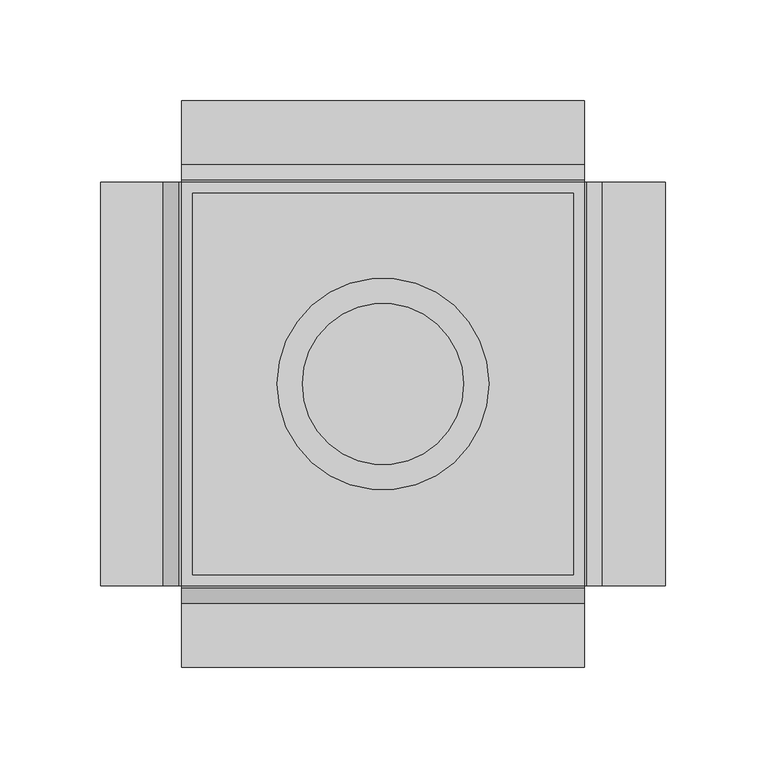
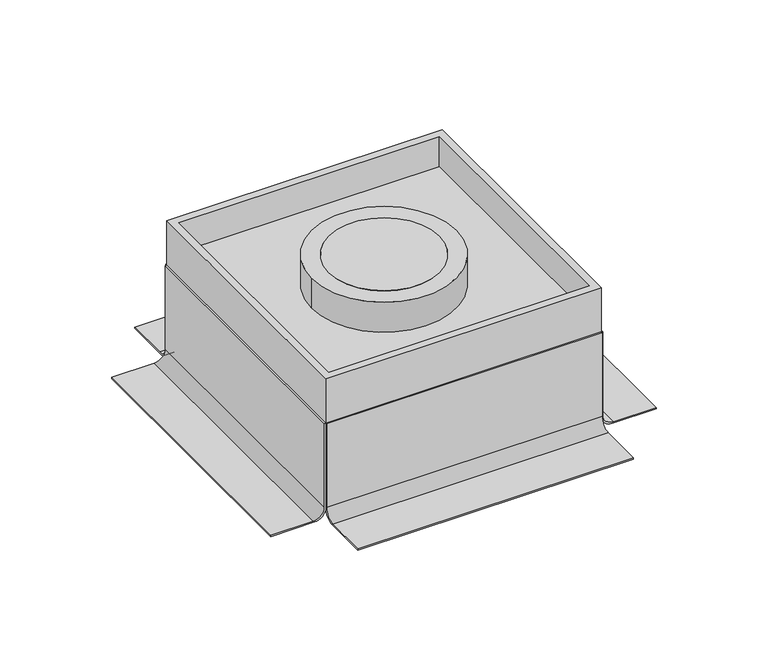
"""IFC4 building model written with IfcOpenShell, lengths in millimetres: proxy geometry, Electrical_Installation_Hager_VE-EE_EKSQ0620TM-Heavy-duty-cassette-Q06-with-tube-mounting-set : Stainless-steel cassette Q06 TM 20 kN."""

import ifcopenshell
import ifcopenshell.guid

model = None  # the IFC model being written
_history = None  # IfcOwnerHistory: only IFC2X3 demands one
_inside = {}  # id of a spatial element -> (the spatial element, [elements in it])
_under = {}  # id of a project, library or spatial element -> (it, [spatial elements below it])
_declared = {}  # id of a project -> (the project, [libraries it declares])
_typed = {}  # id of a type object -> (the type object, [elements of that type])
_made_of = {}  # id of a material, layer set ... -> (it, [elements and type objects made of it])


def new_model(schema):
    """Start an empty IFC model of exactly this schema.

    Asked for "IFC4X3", IfcOpenShell would pick the latest addendum, in which some entities
    have other attributes; the version numbers below select the first issue.
    IFC2X3 requires an IfcOwnerHistory on every rooted entity: one is made here for all.
    """
    global model, _history
    if schema == "IFC4X3":
        model = ifcopenshell.file(schema_version=(4, 3, 0, 0))
    else:
        model = ifcopenshell.file(schema=schema)
    _inside.clear()
    _under.clear()
    _declared.clear()
    _typed.clear()
    _made_of.clear()
    _history = None
    if model.schema == "IFC2X3":
        org = make("IfcOrganization", Name="unknown")
        user = make(
            "IfcPersonAndOrganization",
            ThePerson=make("IfcPerson", FamilyName="unknown"),
            TheOrganization=org,
        )
        app = make(
            "IfcApplication",
            ApplicationDeveloper=org,
            Version="unknown",
            ApplicationFullName="unknown",
            ApplicationIdentifier="unknown",
        )
        _history = make(
            "IfcOwnerHistory",
            OwningUser=user,
            OwningApplication=app,
            ChangeAction="ADDED",
            CreationDate=0,
        )
    return model


def make(cls, **values):
    """One entity of the class cls with the attributes given. An attribute that is None is left unset."""
    return model.create_entity(
        cls, **{name: value for name, value in values.items() if value is not None}
    )


def rooted(cls, **values):
    """An entity with a GlobalId (a new one), such as an element, a storey or a relation."""
    return make(cls, GlobalId=ifcopenshell.guid.new(), OwnerHistory=_history, **values)


def si_unit(unit_type, name, prefix=None):
    """IfcSIUnit, for example si_unit("LENGTHUNIT", "METRE", prefix="MILLI")."""
    return make("IfcSIUnit", UnitType=unit_type, Prefix=prefix, Name=name)


def assignment(units):
    """IfcUnitAssignment: the units of a project."""
    return None if units is None else make("IfcUnitAssignment", Units=units)


def point(xyz):
    """IfcCartesianPoint."""
    return None if xyz is None else make("IfcCartesianPoint", Coordinates=xyz)


def direction(xyz):
    """IfcDirection."""
    return None if xyz is None else make("IfcDirection", DirectionRatios=xyz)


def frame(location, z_axis=None, x_axis=None):
    """IfcAxis2Placement3D, a coordinate frame: its origin and axes. An axis left out is left unset."""
    return make(
        "IfcAxis2Placement3D",
        Location=point(location),
        Axis=direction(z_axis),
        RefDirection=direction(x_axis),
    )


def frame_2d(location, x_axis=None):
    """IfcAxis2Placement2D, a coordinate frame in the plane: its origin and x axis."""
    return make(
        "IfcAxis2Placement2D", Location=point(location), RefDirection=direction(x_axis)
    )


def origin():
    """The frame at (0, 0, 0) with its axes left unset."""
    return frame((0.0, 0.0, 0.0))


def origin_with_axes():
    """The frame at (0, 0, 0) with the z axis (0, 0, 1) and the x axis (1, 0, 0) written out."""
    return frame((0.0, 0.0, 0.0), z_axis=(0.0, 0.0, 1.0), x_axis=(1.0, 0.0, 0.0))


def origin_2d():
    """The frame at (0, 0) in the plane with its x axis left unset."""
    return frame_2d((0.0, 0.0))


def place(relative_to, where):
    """IfcLocalPlacement: puts the frame where relative to a parent placement (None: the world)."""
    return make(
        "IfcLocalPlacement", PlacementRelTo=relative_to, RelativePlacement=where
    )


def context(
    kind, dimensions, precision=None, world=None, true_north=None, identifier=None
):
    """IfcGeometricRepresentationContext, for example the 3D "Model" context."""
    return make(
        "IfcGeometricRepresentationContext",
        ContextIdentifier=identifier,
        ContextType=kind,
        CoordinateSpaceDimension=dimensions,
        Precision=precision,
        WorldCoordinateSystem=world,
        TrueNorth=true_north,
    )


def project(units=None, contexts=None):
    """IfcProject with its units and contexts."""
    return rooted(
        "IfcProject",
        Name="project",
        RepresentationContexts=contexts,
        UnitsInContext=assignment(units),
    )


def spatial(cls, under=None, at=None, **own):
    """A site, building, storey or space (cls), placed at a placement, below another one or the project."""
    s = rooted(cls, ObjectPlacement=at, **own)
    if under is not None:
        _under.setdefault(under.id(), (under, []))[1].append(s)
    return s


def polyline(points):
    """IfcPolyline through the points."""
    return make("IfcPolyline", Points=[point(p) for p in points])


def circle_curve(where, radius):
    """IfcCircle in the frame where."""
    return make("IfcCircle", Position=where, Radius=radius)


def trimmed(basis, trim1, trim2, sense, master):
    """IfcTrimmedCurve: the piece of a basis curve between two trims."""
    return make(
        "IfcTrimmedCurve",
        BasisCurve=basis,
        Trim1=trim1,
        Trim2=trim2,
        SenseAgreement=sense,
        MasterRepresentation=master,
    )


def segment(curve, same_sense, transition):
    """IfcCompositeCurveSegment."""
    return make(
        "IfcCompositeCurveSegment",
        Transition=transition,
        SameSense=same_sense,
        ParentCurve=curve,
    )


def composite_curve(segments, self_intersect=None):
    """IfcCompositeCurve: segments joined end to end."""
    return make("IfcCompositeCurve", Segments=segments, SelfIntersect=self_intersect)


def outline(outer, holes=None, kind="AREA"):
    """IfcArbitraryClosedProfileDef: a profile drawn as a closed curve; with holes, ...WithVoids."""
    if holes is None:
        return make("IfcArbitraryClosedProfileDef", ProfileType=kind, OuterCurve=outer)
    return make(
        "IfcArbitraryProfileDefWithVoids",
        ProfileType=kind,
        OuterCurve=outer,
        InnerCurves=holes,
    )


def extrude(swept, where, along, depth):
    """IfcExtrudedAreaSolid: the profile swept, set in the frame where, extruded along a direction by depth."""
    return make(
        "IfcExtrudedAreaSolid",
        SweptArea=swept,
        Position=where,
        ExtrudedDirection=direction(along),
        Depth=depth,
    )


def shape(context_of_items, identifier, shape_type, items):
    """IfcShapeRepresentation: the items that make up one representation, for example the "Body"."""
    return make(
        "IfcShapeRepresentation",
        ContextOfItems=context_of_items,
        RepresentationIdentifier=identifier,
        RepresentationType=shape_type,
        Items=items,
    )


def source(mapping_origin, context_of_items, identifier, shape_type, items):
    """IfcRepresentationMap: a shape defined once, which mapped items show again and again."""
    return make(
        "IfcRepresentationMap",
        MappingOrigin=mapping_origin,
        MappedRepresentation=shape(context_of_items, identifier, shape_type, items),
    )


def transform(
    local_origin,
    x_axis=None,
    y_axis=None,
    z_axis=None,
    scale=None,
    scale2=None,
    scale3=None,
    uniform=True,
):
    """IfcCartesianTransformationOperator3D, or its non-uniform kind. x_axis, y_axis, z_axis: its Axis1, 2, 3."""
    if uniform:
        return make(
            "IfcCartesianTransformationOperator3D",
            Axis1=direction(x_axis),
            Axis2=direction(y_axis),
            LocalOrigin=point(local_origin),
            Scale=scale,
            Axis3=direction(z_axis),
        )
    return make(
        "IfcCartesianTransformationOperator3DnonUniform",
        Axis1=direction(x_axis),
        Axis2=direction(y_axis),
        LocalOrigin=point(local_origin),
        Scale=scale,
        Axis3=direction(z_axis),
        Scale2=scale2,
        Scale3=scale3,
    )


def mapped(mapping_source, mapping_target):
    """IfcMappedItem: shows the shape of a source again, moved by a transform."""
    return make(
        "IfcMappedItem", MappingSource=mapping_source, MappingTarget=mapping_target
    )


def made_of(thing, what):
    """Note that an element or type object is made of a material, layer set ...; save() writes the relation."""
    if what is not None:
        _made_of.setdefault(what.id(), (what, []))[1].append(thing)
    return thing


def element(
    cls,
    number,
    at=None,
    inside=None,
    cuts=None,
    type_object=None,
    material=None,
    context=None,
    identifier="Body",
    shape_type=None,
    held_by="IfcProductDefinitionShape",
    body=None,
    shapes=None,
    **own,
):
    """One element of the class cls, such as IfcWall. Its Tag is "e" and its number.

    at: its placement. inside: the storey or other place that contains it. cuts: it is an
    opening in that element (IfcRelVoidsElement). A single representation is given by context,
    identifier, shape_type and body (its items); several are given by shapes. held_by: the class
    of the entity that holds the representations. save() writes the other relations.
    """
    e = rooted(cls, Tag="e%d" % number, ObjectPlacement=at, **own)
    if body is not None:
        shapes = [shape(context, identifier, shape_type, body)]
    if shapes is not None:
        e.Representation = make(held_by, Representations=shapes)
    if inside is not None:
        _inside.setdefault(inside.id(), (inside, []))[1].append(e)
    if cuts is not None:
        rooted(
            "IfcRelVoidsElement", RelatingBuildingElement=cuts, RelatedOpeningElement=e
        )
    if type_object is not None:
        _typed.setdefault(type_object.id(), (type_object, []))[1].append(e)
    return made_of(e, material)


def aggregate(whole, parts):
    """IfcRelAggregates: a whole, such as a stair, and the parts it consists of."""
    return rooted("IfcRelAggregates", RelatingObject=whole, RelatedObjects=parts)


def save(model, path):
    """Write the relations noted so far, then the file.

    IfcRelAggregates (storeys below a building ...), IfcRelContainedInSpatialStructure (elements
    in a storey), IfcRelDefinesByType, IfcRelAssociatesMaterial and IfcRelDeclares: one each for
    every whole, place, type object, material and project.
    """
    for whole, parts in _under.values():
        aggregate(whole, parts)
    for where, things in _inside.values():
        rooted(
            "IfcRelContainedInSpatialStructure",
            RelatedElements=things,
            RelatingStructure=where,
        )
    for kind, things in _typed.values():
        rooted("IfcRelDefinesByType", RelatedObjects=things, RelatingType=kind)
    for what, things in _made_of.values():
        rooted("IfcRelAssociatesMaterial", RelatedObjects=things, RelatingMaterial=what)
    for by, libraries in _declared.values():
        rooted("IfcRelDeclares", RelatingContext=by, RelatedDefinitions=libraries)
    model.write(path)


def electrical_fixtures_e7bc1b67(model_context):
    return source(origin(), model_context, "Body", "SweptSolid", [
        extrude(outline(composite_curve([segment(trimmed(circle_curve(origin_2d(), 40.0), [point((-40.0, 0.0))], [point((40.0, 0.0))], False, "CARTESIAN"), True, "CONTINUOUS"), segment(trimmed(circle_curve(origin_2d(), 40.0), [point((40.0, 0.0))], [point((-40.0, 0.0))], False, "CARTESIAN"), True, "CONTINUOUS")], self_intersect=False)), origin_with_axes(), (0.0, 0.0, 1.0), 2.0),
        extrude(outline(composite_curve([segment(trimmed(circle_curve(origin_2d(), 52.5), [point((-52.5, 0.0))], [point((52.5, 0.0))], False, "CARTESIAN"), True, "CONTINUOUS"), segment(trimmed(circle_curve(origin_2d(), 52.5), [point((52.5, 0.0))], [point((-52.5, 0.0))], False, "CARTESIAN"), True, "CONTINUOUS")], self_intersect=False), holes=[composite_curve([segment(trimmed(circle_curve(origin_2d(), 40.0), [point((-40.0, 0.0))], [point((40.0, 0.0))], True, "CARTESIAN"), True, "CONTINUOUS"), segment(trimmed(circle_curve(origin_2d(), 40.0), [point((40.0, 0.0))], [point((-40.0, 0.0))], True, "CARTESIAN"), True, "CONTINUOUS")], self_intersect=False)]), frame((0.0, 0.0, -21.0), z_axis=(0.0, 0.0, 1.0), x_axis=(1.0, 0.0, 0.0)), (0.0, 0.0, 1.0), 23.0),
        extrude(outline(composite_curve([segment(polyline([(-32.0, -100.0), (-32.0, -101.0), (-96.0, -101.0)]), True, "CONTINUOUS"), segment(trimmed(circle_curve(frame_2d((-96.0, -109.0)), 8.0), [point((-96.0, -101.0))], [point((-104.0, -109.0))], True, "CARTESIAN"), True, "CONTINUOUS"), segment(polyline([(-104.0, -109.0), (-104.0, -140.0), (-105.0, -140.0), (-105.0, -108.0)]), True, "CONTINUOUS"), segment(trimmed(circle_curve(frame_2d((-97.0, -108.0)), 8.0), [point((-105.0, -108.0))], [point((-97.0, -100.0))], False, "CARTESIAN"), True, "CONTINUOUS"), segment(polyline([(-97.0, -100.0), (-32.0, -100.0)]), True, "CONTINUOUS")], self_intersect=False)), frame((0.0, -100.0, 0.0), z_axis=(0.0, 1.0, 0.0), x_axis=(0.0, 0.0, 1.0)), (0.0, 0.0, 1.0), 200.0),
        extrude(outline(composite_curve([segment(polyline([(-32.0, 100.0), (-97.0, 100.0)]), True, "CONTINUOUS"), segment(trimmed(circle_curve(frame_2d((-97.0, 108.0)), 8.0), [point((-97.0, 100.0))], [point((-105.0, 108.0))], False, "CARTESIAN"), True, "CONTINUOUS"), segment(polyline([(-105.0, 108.0), (-105.0, 140.0), (-104.0, 140.0), (-104.0, 109.0)]), True, "CONTINUOUS"), segment(trimmed(circle_curve(frame_2d((-96.0, 109.0)), 8.0), [point((-104.0, 109.0))], [point((-96.0, 101.0))], True, "CARTESIAN"), True, "CONTINUOUS"), segment(polyline([(-96.0, 101.0), (-32.0, 101.0), (-32.0, 100.0)]), True, "CONTINUOUS")], self_intersect=False)), frame((0.0, -100.0, 0.0), z_axis=(0.0, 1.0, 0.0), x_axis=(0.0, 0.0, 1.0)), (0.0, 0.0, 1.0), 200.0),
        extrude(outline(composite_curve([segment(polyline([(101.0, -32.0), (101.0, -96.0189708)]), True, "CONTINUOUS"), segment(trimmed(circle_curve(frame_2d((108.9810292, -96.0189708)), 7.9810292), [point((101.0, -96.0189708))], [point((108.9810292, -104.0))], True, "CARTESIAN"), True, "CONTINUOUS"), segment(polyline([(108.9810292, -104.0), (140.4, -104.0), (140.4, -105.0), (108.0, -105.0)]), True, "CONTINUOUS"), segment(trimmed(circle_curve(frame_2d((108.0, -97.0)), 8.0), [point((108.0, -105.0))], [point((100.0, -97.0))], False, "CARTESIAN"), True, "CONTINUOUS"), segment(polyline([(100.0, -97.0), (100.0, -32.0), (101.0, -32.0)]), True, "CONTINUOUS")], self_intersect=False)), frame((-100.0, 0.0, 0.0), z_axis=(1.0, 0.0, 0.0), x_axis=(0.0, 1.0, 0.0)), (0.0, 0.0, 1.0), 200.0),
        extrude(outline(composite_curve([segment(polyline([(-101.0, -32.0), (-100.0, -32.0), (-100.0, -97.0)]), True, "CONTINUOUS"), segment(trimmed(circle_curve(frame_2d((-108.0, -97.0)), 8.0), [point((-100.0, -97.0))], [point((-108.0, -105.0))], False, "CARTESIAN"), True, "CONTINUOUS"), segment(polyline([(-108.0, -105.0), (-140.4, -105.0), (-140.4, -104.0), (-109.0, -104.0)]), True, "CONTINUOUS"), segment(trimmed(circle_curve(frame_2d((-109.0, -96.0)), 8.0), [point((-109.0, -104.0))], [point((-101.0, -96.0))], True, "CARTESIAN"), True, "CONTINUOUS"), segment(polyline([(-101.0, -96.0), (-101.0, -32.0)]), True, "CONTINUOUS")], self_intersect=False)), frame((-100.0, 0.0, 0.0), z_axis=(1.0, 0.0, 0.0), x_axis=(0.0, 1.0, 0.0)), (0.0, 0.0, 1.0), 200.0),
        extrude(outline(composite_curve([segment(trimmed(circle_curve(frame_2d((-82.4725668, 86.0)), 6.0), [point((-88.4725668, 86.0))], [point((-76.4725668, 86.0))], False, "CARTESIAN"), True, "CONTINUOUS"), segment(trimmed(circle_curve(frame_2d((-82.4725668, 86.0)), 6.0), [point((-76.4725668, 86.0))], [point((-88.4725668, 86.0))], False, "CARTESIAN"), True, "CONTINUOUS")], self_intersect=False)), frame((0.0, 0.0, -105.0), z_axis=(0.0, 0.0, 1.0), x_axis=(1.0, 0.0, 0.0)), (0.0, 0.0, 1.0), 36.0),
        extrude(outline(composite_curve([segment(trimmed(circle_curve(frame_2d((82.4744064, 86.0)), 6.0), [point((76.4744064, 86.0))], [point((88.4744064, 86.0))], False, "CARTESIAN"), True, "CONTINUOUS"), segment(trimmed(circle_curve(frame_2d((82.4744064, 86.0)), 6.0), [point((88.4744064, 86.0))], [point((76.4744064, 86.0))], False, "CARTESIAN"), True, "CONTINUOUS")], self_intersect=False)), frame((0.0, 0.0, -105.0), z_axis=(0.0, 0.0, 1.0), x_axis=(1.0, 0.0, 0.0)), (0.0, 0.0, 1.0), 36.0),
        extrude(outline(composite_curve([segment(trimmed(circle_curve(frame_2d((82.6049595, -85.0591413)), 6.0), [point((76.6049595, -85.0591413))], [point((88.6049595, -85.0591413))], False, "CARTESIAN"), True, "CONTINUOUS"), segment(trimmed(circle_curve(frame_2d((82.6049595, -85.0591413)), 6.0), [point((88.6049595, -85.0591413))], [point((76.6049595, -85.0591413))], False, "CARTESIAN"), True, "CONTINUOUS")], self_intersect=False)), frame((0.0, 0.0, -105.0), z_axis=(0.0, 0.0, 1.0), x_axis=(1.0, 0.0, 0.0)), (0.0, 0.0, 1.0), 36.0),
        extrude(outline(composite_curve([segment(trimmed(circle_curve(frame_2d((-82.5134194, -84.8420246)), 6.0), [point((-88.5134194, -84.8420246))], [point((-76.5134194, -84.8420246))], False, "CARTESIAN"), True, "CONTINUOUS"), segment(trimmed(circle_curve(frame_2d((-82.5134194, -84.8420246)), 6.0), [point((-76.5134194, -84.8420246))], [point((-88.5134194, -84.8420246))], False, "CARTESIAN"), True, "CONTINUOUS")], self_intersect=False)), frame((0.0, 0.0, -105.0), z_axis=(0.0, 0.0, 1.0), x_axis=(1.0, 0.0, 0.0)), (0.0, 0.0, 1.0), 36.0),
        extrude(outline(polyline([(4.7, 78.5), (72.9392045, 78.5), (88.5, 61.457826), (88.5, -59.6394213), (73.2714168, -77.5), (-73.3036073, -77.5), (-88.5, -59.6394213), (-88.5, 60.8503893), (-72.7447716, 78.5), (4.7, 78.5)]), holes=[polyline([(-86.0, 60.5), (-86.0, -59.7411819), (-73.0172744, -75.0), (72.9708846, -75.0), (86.0, -59.7190289), (86.0, 60.5), (73.0, 76.0), (4.7, 76.0), (-72.9351493, 76.0), (-86.0, 60.5)])]), frame((0.0, 0.0, -72.8886996), z_axis=(0.0, 0.0, 1.0), x_axis=(1.0, 0.0, 0.0)), (0.0, 0.0, 1.0), 40.8886996),
        extrude(outline(polyline([(94.5, 94.5), (94.5, -94.5), (-94.5, -94.5), (-94.5, 94.5), (94.5, 94.5)])), frame((0.0, 0.0, -32.0), z_axis=(0.0, 0.0, 1.0), x_axis=(1.0, 0.0, 0.0)), (0.0, 0.0, 1.0), 11.0),
        extrude(outline(composite_curve([segment(trimmed(circle_curve(frame_2d((82.5179259, -85.0546652)), 8.0), [point((74.5179259, -85.0546652))], [point((90.5179259, -85.0546652))], False, "CARTESIAN"), True, "CONTINUOUS"), segment(trimmed(circle_curve(frame_2d((82.5179259, -85.0546652)), 8.0), [point((90.5179259, -85.0546652))], [point((74.5179259, -85.0546652))], False, "CARTESIAN"), True, "CONTINUOUS")], self_intersect=False)), frame((0.0, 0.0, -69.0), z_axis=(0.0, 0.0, 1.0), x_axis=(1.0, 0.0, 0.0)), (0.0, 0.0, 1.0), 37.0),
        extrude(outline(composite_curve([segment(trimmed(circle_curve(frame_2d((82.4502281, 86.0)), 8.0), [point((74.4502281, 86.0))], [point((90.4502281, 86.0))], False, "CARTESIAN"), True, "CONTINUOUS"), segment(trimmed(circle_curve(frame_2d((82.4502281, 86.0)), 8.0), [point((90.4502281, 86.0))], [point((74.4502281, 86.0))], False, "CARTESIAN"), True, "CONTINUOUS")], self_intersect=False)), frame((0.0, 0.0, -69.0), z_axis=(0.0, 0.0, 1.0), x_axis=(1.0, 0.0, 0.0)), (0.0, 0.0, 1.0), 37.0),
        extrude(outline(composite_curve([segment(trimmed(circle_curve(frame_2d((-82.5762698, 86.0)), 8.0), [point((-90.5762698, 86.0))], [point((-74.5762698, 86.0))], False, "CARTESIAN"), True, "CONTINUOUS"), segment(trimmed(circle_curve(frame_2d((-82.5762698, 86.0)), 8.0), [point((-74.5762698, 86.0))], [point((-90.5762698, 86.0))], False, "CARTESIAN"), True, "CONTINUOUS")], self_intersect=False)), frame((0.0, 0.0, -69.0), z_axis=(0.0, 0.0, 1.0), x_axis=(1.0, 0.0, 0.0)), (0.0, 0.0, 1.0), 37.0),
        extrude(outline(composite_curve([segment(trimmed(circle_curve(frame_2d((-82.589841, -84.7614457)), 8.0111652), [point((-90.6010063, -84.7614457))], [point((-74.5786758, -84.7614457))], False, "CARTESIAN"), True, "CONTINUOUS"), segment(trimmed(circle_curve(frame_2d((-82.589841, -84.7614457)), 8.0111652), [point((-74.5786758, -84.7614457))], [point((-90.6010063, -84.7614457))], False, "CARTESIAN"), True, "CONTINUOUS")], self_intersect=False)), frame((0.0, 0.0, -69.0), z_axis=(0.0, 0.0, 1.0), x_axis=(1.0, 0.0, 0.0)), (0.0, 0.0, 1.0), 37.0),
        extrude(outline(polyline([(100.0, 100.0), (100.0, -100.0), (-100.0, -100.0), (-100.0, 100.0), (100.0, 100.0)]), holes=[polyline([(94.5, 94.5), (-94.5, 94.5), (-94.5, -94.5), (94.5, -94.5), (94.5, 94.5)])]), frame((0.0, 0.0, -32.0), z_axis=(0.0, 0.0, 1.0), x_axis=(1.0, 0.0, 0.0)), (0.0, 0.0, 1.0), 34.0),
    ])


if __name__ == "__main__":
    model = new_model("IFC4")
    model_context = context("Model", 3, world=origin())
    ifc_project = project(units=[si_unit("LENGTHUNIT", "METRE", prefix="MILLI")], contexts=[model_context])
    site = spatial("IfcSite", under=ifc_project)
    building = spatial("IfcBuilding", under=site)
    placement = place(None, origin())
    electrical_fixtures_shape = electrical_fixtures_e7bc1b67(model_context)
    element("IfcBuildingElementProxy", 1, Name="Electrical_Installation_Hager_VE-EE_EKSQ0620TM-Heavy-duty-cassette-Q06-with-tube-mounting-set : Stainless-steel cassette Q06 TM 20 kN", ObjectType="Electrical_Installation_Hager_VE-EE_EKSQ0620TM-Heavy-duty-cassette-Q06-with-tube-mounting-set : Stainless-steel cassette Q06 TM 20 kN", at=placement, inside=building, context=model_context, shape_type="MappedRepresentation", body=[
        mapped(electrical_fixtures_shape, transform((0.0, 0.0, 0.0), x_axis=(1.0, 0.0, 0.0), y_axis=(0.0, 1.0, 0.0), z_axis=(0.0, 0.0, 1.0))),
    ])
    save(model, "model.ifc")
